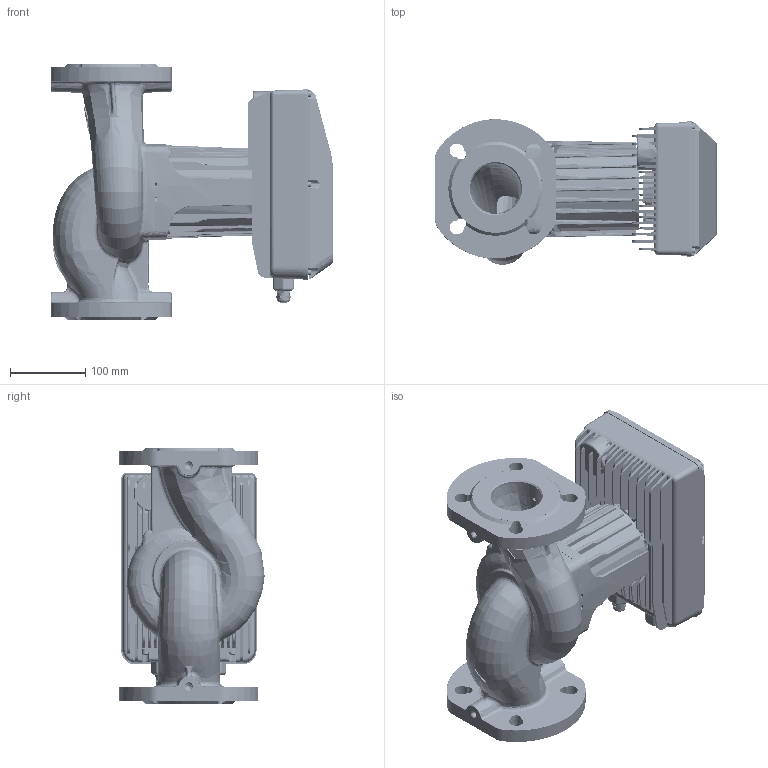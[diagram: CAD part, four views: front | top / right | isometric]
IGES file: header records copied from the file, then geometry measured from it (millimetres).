
Global section: file name: 015P1307(RWE 65-120FS); native system: AutoCAD 2021 — Русский (Russian),62HAutod; preprocessor: esk Translation Framework DWG producer (atf_dwg_producer); organization: unknown; date: 20260426.121848; units: millimetre
Bounding box: 374.5 x 193.31 x 340 mm (x, y, z)
Surface area: 800913.5 mm2 (no closed solid volume)
Topology: 0 solids, 0 shells, 2616 faces, 54282 edges, 54129 vertices
Faces by surface type: bspline 1491, revolution 1125
